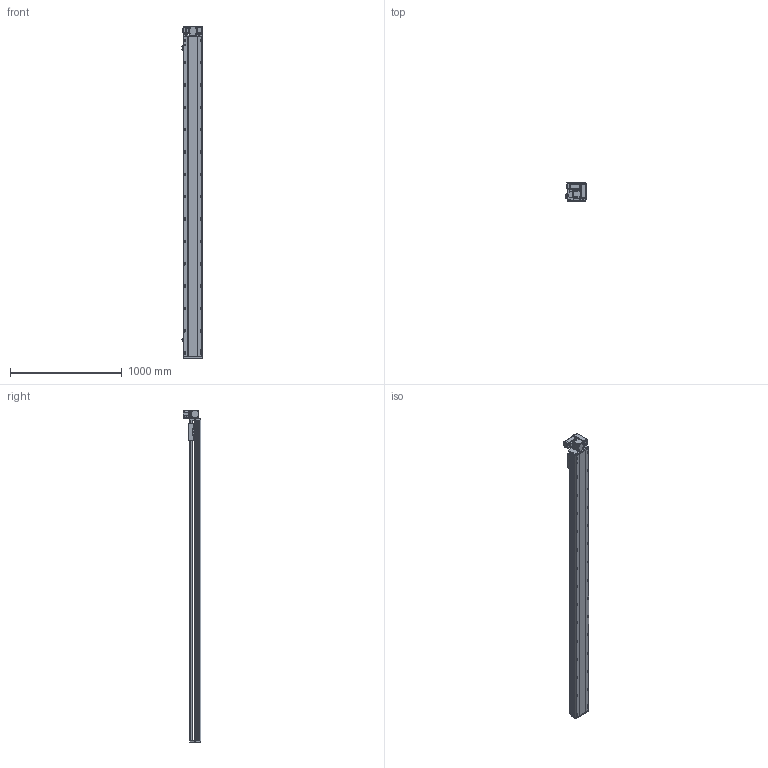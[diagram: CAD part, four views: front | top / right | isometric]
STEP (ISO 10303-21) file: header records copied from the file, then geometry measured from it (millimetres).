
FILE_DESCRIPTION (( 'STEP AP214' ), '1' );
FILE_NAME ('RTB17S-XX-2600-RW-M40-C4.STEP', '2025-12-11T09:14:31', ( '' ), ( '' ), 'SwSTEP 2.0', 'SolidWorks 2018', '' );
FILE_SCHEMA (( 'AUTOMOTIVE_DESIGN' ));
Length unit declared in the file: millimetre
Products named in the file (14): RTB17-R-011菁釱^RTB17S-XX-XX-RW-M40-C4; RTB17S-L-004佪裝蹟譫蟀諉釱^RTB17S-XX-XX-RW-M40-C4; RTH13-BL-012覜茼え俋离^RTB17S-XX-XX-RW-M40-C4; RTB14-L-018P^RTB17S-RW-々湍釱蚾饜-400W_RTB17S-XX-XX-RW-M40-C4; RTB14-L-008-M20--萇儂啣^RTB17S-RW-々湍釱蚾饜-400W_RTB17S-XX-XX-RW-M40-C4; RTB17S-L-001耜醱啣^RTB17S-XX-XX-RW-M40-C4; RTB14-L-005P--轴承塑胶压盖^RTB17S-RW-皮带座装配-400W_RTB17S-XX-XX-RW-M40-C4; RMP17S-L-014-T20--々湍釱^RTB17S-RW-々湍釱蚾饜-400W_RTB17S-XX-XX-RW-M40-C4; 400W侜督萇儂^RTB17S-XX-XX-RW-M40-C4; RTB17S-XX-2600-RW-M40-C4; OMRON EE-SX672 传感器^RTB17S-XX-XX-RW-M40-C4; RTB17S-L-007奻裔^RTB17S-XX-XX-RW-M40-C4; RTB14-L-017P^RTB17S-RW-々湍釱蚾饜-400W_RTB17S-XX-XX-RW-M40-C4; RTB17S-RW-々湍釱蚾饜-400W^RTB17S-XX-XX-RW-M40-C4
Assembly tree (16 placements, depth 3):
  RTB17S-XX-2600-RW-M40-C4
    RTB17-R-011菁釱^RTB17S-XX-XX-RW-M40-C4
    RTB17S-L-007奻裔^RTB17S-XX-XX-RW-M40-C4
    OMRON EE-SX672 传感器^RTB17S-XX-XX-RW-M40-C4  x3
    RTB17S-L-001耜醱啣^RTB17S-XX-XX-RW-M40-C4
    400W侜督萇儂^RTB17S-XX-XX-RW-M40-C4
    RTB17S-L-004佪裝蹟譫蟀諉釱^RTB17S-XX-XX-RW-M40-C4
    RTH13-BL-012覜茼え俋离^RTB17S-XX-XX-RW-M40-C4
    RTB17S-RW-々湍釱蚾饜-400W^RTB17S-XX-XX-RW-M40-C4
      RMP17S-L-014-T20--々湍釱^RTB17S-RW-々湍釱蚾饜-400W_RTB17S-XX-XX-RW-M40-C4
      RTB14-L-005P--轴承塑胶压盖^RTB17S-RW-皮带座装配-400W_RTB17S-XX-XX-RW-M40-C4
      RTB14-L-008-M20--萇儂啣^RTB17S-RW-々湍釱蚾饜-400W_RTB17S-XX-XX-RW-M40-C4
      RTB14-L-017P^RTB17S-RW-々湍釱蚾饜-400W_RTB17S-XX-XX-RW-M40-C4  x2
      RTB14-L-018P^RTB17S-RW-々湍釱蚾饜-400W_RTB17S-XX-XX-RW-M40-C4
Bounding box: 183.5 x 160.5 x 2972.5 mm (x, y, z)
Volume: 25424834.4 mm3; surface area: 2920031.7 mm2
Topology: 15 solids, 15 shells, 2333 faces, 6519 edges, 4257 vertices
Faces by surface type: plane 1084, cylinder 801, bspline 301, cone 139, torus 8
Entity records: 68777 total; most frequent: CARTESIAN_POINT 19524, ORIENTED_EDGE 9882, DIRECTION 9116, EDGE_CURVE 4941, VERTEX_POINT 3245, AXIS2_PLACEMENT_3D 3175, LINE 2766, VECTOR 2766
